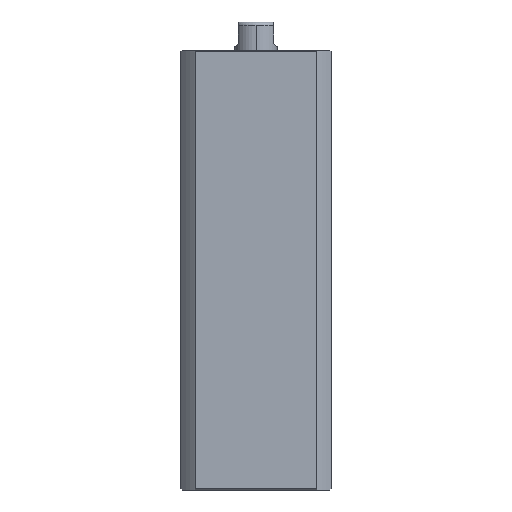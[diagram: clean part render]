
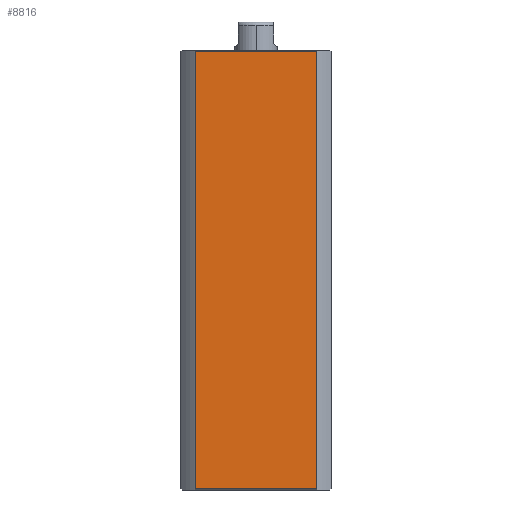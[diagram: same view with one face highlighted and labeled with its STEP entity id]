
A CAD part, left-side view. The second image highlights one B-rep face of the part: STEP entity #8816.
In plain terms, the highlighted planar face has unit normal (-1, 0, 0).
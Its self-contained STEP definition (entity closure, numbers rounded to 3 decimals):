
#573 = CARTESIAN_POINT ( 'NONE',  ( -21., 16.971, 122.7 ) ) ;
#618 = VECTOR ( 'NONE', #6230, 1000. ) ;
#709 = EDGE_CURVE ( 'NONE', #7021, #9509, #1116, .T. ) ;
#1116 = LINE ( 'NONE', #1720, #10835 ) ;
#1203 = DIRECTION ( 'NONE',  ( 0., -1., 0. ) ) ;
#1584 = CARTESIAN_POINT ( 'NONE',  ( -21., 16.971, -177. ) ) ;
#1720 = CARTESIAN_POINT ( 'NONE',  ( -21., 21., 0.3 ) ) ;
#2581 = DIRECTION ( 'NONE',  ( 0., 1., 0. ) ) ;
#3719 = CARTESIAN_POINT ( 'NONE',  ( -21., 21., 123. ) ) ;
#3874 = VERTEX_POINT ( 'NONE', #11764 ) ;
#4490 = ORIENTED_EDGE ( 'NONE', *, *, #12011, .F. ) ;
#4672 = DIRECTION ( 'NONE',  ( 0., 1., 0. ) ) ;
#6230 = DIRECTION ( 'NONE',  ( 0., 0., 1. ) ) ;
#6728 = CARTESIAN_POINT ( 'NONE',  ( -21., -16.971, 0.3 ) ) ;
#6954 = LINE ( 'NONE', #11220, #11696 ) ;
#7021 = VERTEX_POINT ( 'NONE', #7548 ) ;
#7193 = FACE_OUTER_BOUND ( 'NONE', #8970, .T. ) ;
#7279 = ORIENTED_EDGE ( 'NONE', *, *, #7920, .T. ) ;
#7429 = PLANE ( 'NONE',  #9456 ) ;
#7548 = CARTESIAN_POINT ( 'NONE',  ( -21., 16.971, 0.3 ) ) ;
#7920 = EDGE_CURVE ( 'NONE', #3874, #11332, #10643, .T. ) ;
#8393 = DIRECTION ( 'NONE',  ( 0., 0., -1. ) ) ;
#8655 = EDGE_CURVE ( 'NONE', #7021, #11332, #10913, .T. ) ;
#8816 = ADVANCED_FACE ( 'NONE', ( #7193 ), #7429, .F. ) ;
#8970 = EDGE_LOOP ( 'NONE', ( #11319, #11209, #4490, #7279 ) ) ;
#9149 = CARTESIAN_POINT ( 'NONE',  ( -21., 21., 122.7 ) ) ;
#9456 = AXIS2_PLACEMENT_3D ( 'NONE', #3719, #10338, #4672 ) ;
#9509 = VERTEX_POINT ( 'NONE', #6728 ) ;
#10336 = VECTOR ( 'NONE', #2581, 1000. ) ;
#10338 = DIRECTION ( 'NONE',  ( 1., 0., 0. ) ) ;
#10643 = LINE ( 'NONE', #9149, #10336 ) ;
#10835 = VECTOR ( 'NONE', #1203, 1000. ) ;
#10913 = LINE ( 'NONE', #1584, #618 ) ;
#11209 = ORIENTED_EDGE ( 'NONE', *, *, #709, .T. ) ;
#11220 = CARTESIAN_POINT ( 'NONE',  ( -21., -16.971, -177. ) ) ;
#11319 = ORIENTED_EDGE ( 'NONE', *, *, #8655, .F. ) ;
#11332 = VERTEX_POINT ( 'NONE', #573 ) ;
#11696 = VECTOR ( 'NONE', #8393, 1000. ) ;
#11764 = CARTESIAN_POINT ( 'NONE',  ( -21., -16.971, 122.7 ) ) ;
#12011 = EDGE_CURVE ( 'NONE', #3874, #9509, #6954, .T. ) ;
